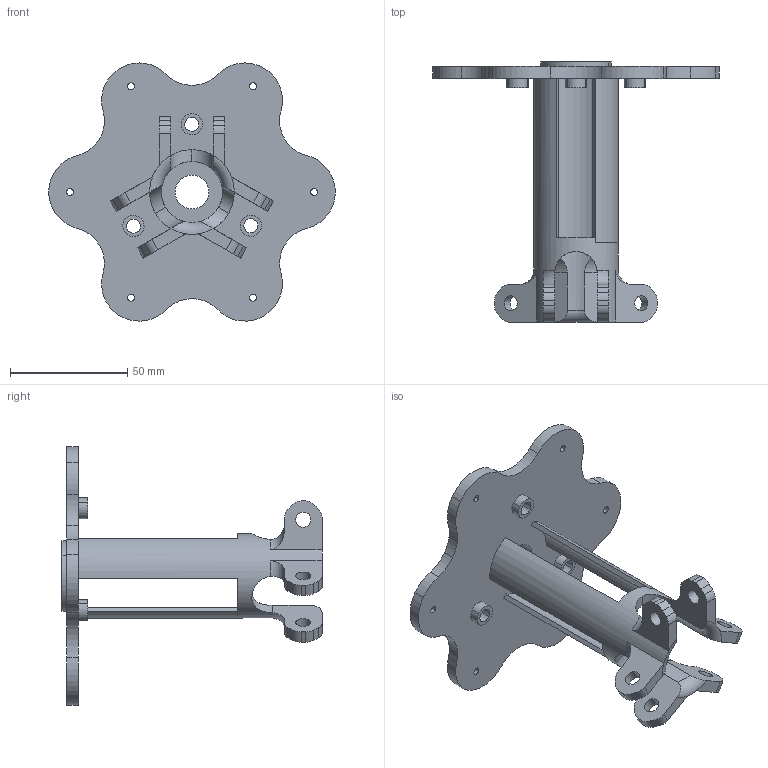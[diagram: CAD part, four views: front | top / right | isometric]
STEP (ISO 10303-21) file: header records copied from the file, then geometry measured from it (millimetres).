
FILE_DESCRIPTION(/* description */ ('STEP AP242 Edition 2','CAx-IF Rec.Pracs.---Representation and Presentation of Product Manufacturing Information (PMI)---4.0---2014-10-13','CAx-IF Rec.Pracs.---3D Tessellated Geometry---0.4---2014-09-14','2;1','CAx-IF Rec.Pracs.---User Defined Attributes---1.5---2016-08-15'),/* implementation_level */ '2;1');
FILE_NAME(/* name */ 'Assembly 1 - Union',/* time_stamp */ '2026-08-25T12:52:25Z',/* author */ (''),/* organization */ (''),/* preprocessor_version */ 'ST-DEVELOPER v20',/* originating_system */ 'ONSHAPE BY PTC INC, 1.219',/* authorisation */ ' ');
FILE_SCHEMA (('AP242_MANAGED_MODEL_BASED_3D_ENGINEERING_MIM_LF { 1 0 10303 442 3 1 4 }'));
Length unit declared in the file: metre
Products named in the file (1): Union
Bounding box: 122.01 x 110.8 x 109.95 mm (x, y, z)
Volume: 70094.8 mm3; surface area: 39582.6 mm2
Topology: 1 solids, 1 shells, 172 faces, 502 edges, 334 vertices
Faces by surface type: cylinder 106, plane 57, torus 9
Full cylindrical faces by diameter (mm): 6.4 x6, 26 x1, 36 x1
Entity records: 5907 total; most frequent: CARTESIAN_POINT 1173, DIRECTION 1025, ORIENTED_EDGE 974, EDGE_CURVE 487, AXIS2_PLACEMENT_3D 401, VERTEX_POINT 327, CIRCLE 228, LINE 223
